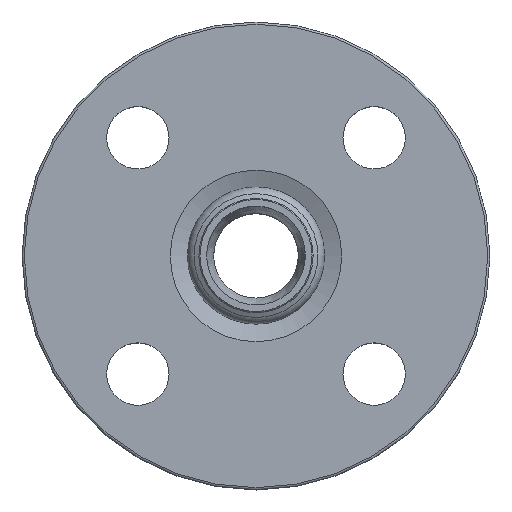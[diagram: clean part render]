
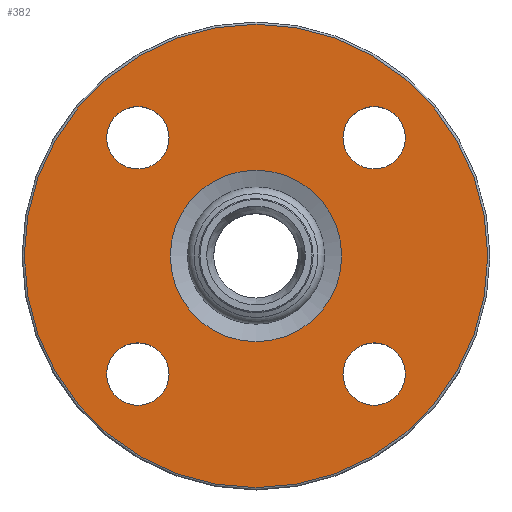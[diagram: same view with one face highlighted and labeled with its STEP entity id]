
A CAD part, top view. The second image highlights one B-rep face of the part: STEP entity #382.
In plain terms, the highlighted planar face has unit normal (0, 0, 1).
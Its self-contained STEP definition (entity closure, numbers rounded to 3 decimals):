
#123=CARTESIAN_POINT('',(0.0,-19.24,0.));
#124=VERTEX_POINT('',#123);
#125=CARTESIAN_POINT('',(0.0,0.,0.0));
#126=DIRECTION('',(0.0,0.0,-1.0));
#127=DIRECTION('',(0.0,-1.0,0.0));
#128=AXIS2_PLACEMENT_3D('',#125,#126,#127);
#129=CIRCLE('',#128,19.24);
#130=EDGE_CURVE('',#124,#124,#129,.T.);
#312=CARTESIAN_POINT('',(52.0,0.,0.0));
#313=VERTEX_POINT('',#312);
#314=CARTESIAN_POINT('',(0.0,0.0,0.0));
#315=DIRECTION('',(0.0,0.0,-1.0));
#316=DIRECTION('',(-1.0,0.0,0.0));
#317=AXIS2_PLACEMENT_3D('',#314,#315,#316);
#318=CIRCLE('',#317,52.0);
#319=EDGE_CURVE('',#313,#313,#318,.T.);
#327=CARTESIAN_POINT('',(0.0,0.0,0.0));
#328=DIRECTION('',(0.0,0.0,-1.0));
#329=DIRECTION('',(-1.0,0.0,0.0));
#330=AXIS2_PLACEMENT_3D('',#327,#328,#329);
#331=PLANE('',#330);
#332=ORIENTED_EDGE('',*,*,#319,.F.);
#333=EDGE_LOOP('',(#332));
#334=FACE_OUTER_BOUND('',#333,.T.);
#335=ORIENTED_EDGE('',*,*,#130,.T.);
#336=EDGE_LOOP('',(#335));
#337=FACE_BOUND('',#336,.T.);
#338=CARTESIAN_POINT('',(-19.517,26.517,0.0));
#339=VERTEX_POINT('',#338);
#340=CARTESIAN_POINT('',(-26.517,26.517,0.0));
#341=DIRECTION('',(0.0,0.0,-1.0));
#342=DIRECTION('',(-1.0,0.0,0.0));
#343=AXIS2_PLACEMENT_3D('',#340,#341,#342);
#344=CIRCLE('',#343,7.);
#345=EDGE_CURVE('',#339,#339,#344,.T.);
#346=ORIENTED_EDGE('',*,*,#345,.T.);
#347=EDGE_LOOP('',(#346));
#348=FACE_BOUND('',#347,.T.);
#349=CARTESIAN_POINT('',(33.517,26.517,0.0));
#350=VERTEX_POINT('',#349);
#351=CARTESIAN_POINT('',(26.517,26.517,0.0));
#352=DIRECTION('',(0.0,0.0,-1.0));
#353=DIRECTION('',(-1.0,0.0,0.0));
#354=AXIS2_PLACEMENT_3D('',#351,#352,#353);
#355=CIRCLE('',#354,7.);
#356=EDGE_CURVE('',#350,#350,#355,.T.);
#357=ORIENTED_EDGE('',*,*,#356,.T.);
#358=EDGE_LOOP('',(#357));
#359=FACE_BOUND('',#358,.T.);
#360=CARTESIAN_POINT('',(33.517,-26.517,0.0));
#361=VERTEX_POINT('',#360);
#362=CARTESIAN_POINT('',(26.517,-26.517,0.0));
#363=DIRECTION('',(0.0,0.0,-1.0));
#364=DIRECTION('',(-1.0,0.0,0.0));
#365=AXIS2_PLACEMENT_3D('',#362,#363,#364);
#366=CIRCLE('',#365,7.);
#367=EDGE_CURVE('',#361,#361,#366,.T.);
#368=ORIENTED_EDGE('',*,*,#367,.T.);
#369=EDGE_LOOP('',(#368));
#370=FACE_BOUND('',#369,.T.);
#371=CARTESIAN_POINT('',(-19.517,-26.517,0.0));
#372=VERTEX_POINT('',#371);
#373=CARTESIAN_POINT('',(-26.517,-26.517,0.0));
#374=DIRECTION('',(0.0,0.0,-1.0));
#375=DIRECTION('',(-1.0,0.0,0.0));
#376=AXIS2_PLACEMENT_3D('',#373,#374,#375);
#377=CIRCLE('',#376,7.);
#378=EDGE_CURVE('',#372,#372,#377,.T.);
#379=ORIENTED_EDGE('',*,*,#378,.T.);
#380=EDGE_LOOP('',(#379));
#381=FACE_BOUND('',#380,.T.);
#382=ADVANCED_FACE('',(#334,#337,#348,#359,#370,#381),#331,.F.);
